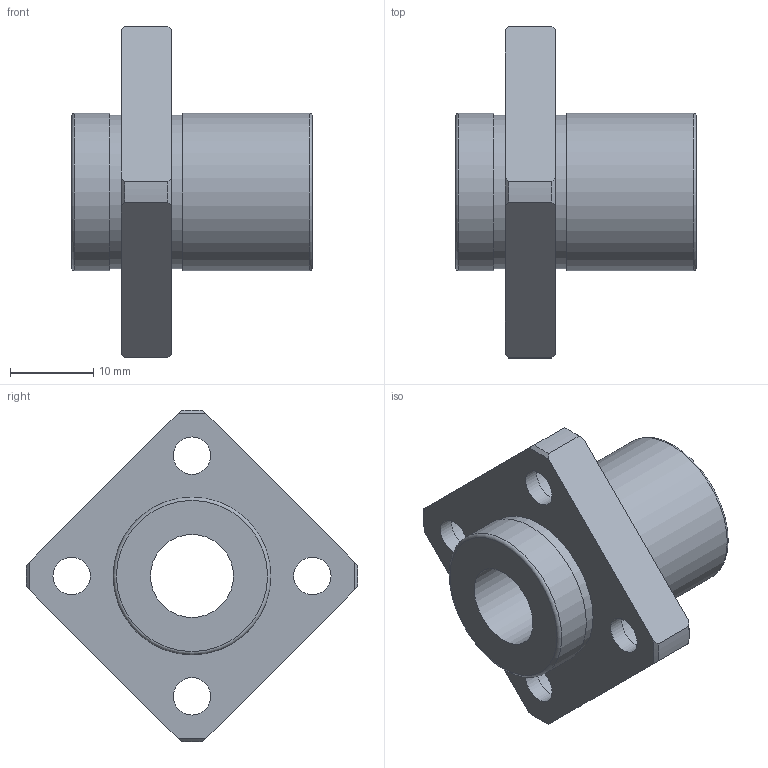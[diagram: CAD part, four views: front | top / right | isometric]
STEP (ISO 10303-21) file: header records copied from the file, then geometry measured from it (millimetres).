
FILE_DESCRIPTION(('STEP AP203'),'1');
FILE_NAME('//192.168.1.1/share/s-4 技術開発/s-4-4_CAD/s-4-4-3_見直し済み/002 修正済み/NFIS-V/NFIS-V_TOP/NFIS-10VUU.step','2022-03-08T02:23:56',(' '),(' '),'Spatial InterOp 3D',' ',' ');
FILE_SCHEMA(('CONFIG_CONTROL_DESIGN'));
Length unit declared in the file: millimetre
Products named in the file (1): 1
Bounding box: 29 x 39.99 x 39.99 mm (x, y, z)
Volume: 8714.9 mm3; surface area: 5004.4 mm2
Topology: 1 solids, 1 shells, 41 faces, 99 edges, 68 vertices
Faces by surface type: cylinder 17, plane 14, cone 8, torus 2
Full cylindrical faces by diameter (mm): 4.5 x4, 7.5 x4, 10 x1, 18.5 x2, 19 x2
Entity records: 1158 total; most frequent: CARTESIAN_POINT 226, DIRECTION 188, ORIENTED_EDGE 152, AXIS2_PLACEMENT_3D 86, EDGE_CURVE 76, EDGE_LOOP 74, VERTEX_POINT 60, FACE_OUTER_BOUND 56
